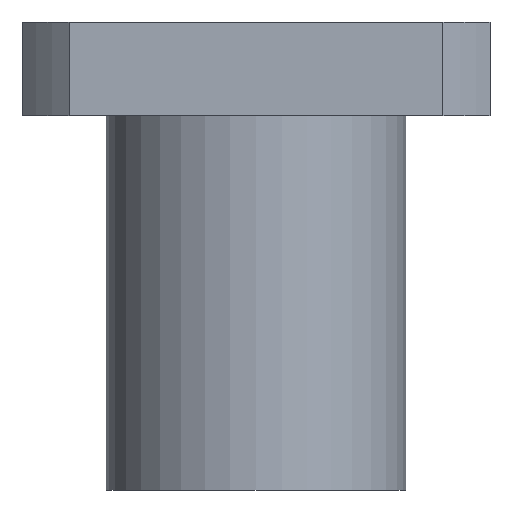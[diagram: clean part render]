
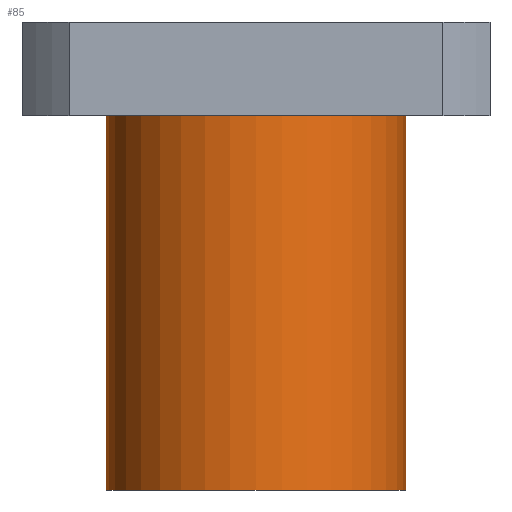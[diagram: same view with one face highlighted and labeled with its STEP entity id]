
A CAD part, front view. The second image highlights one B-rep face of the part: STEP entity #85.
In plain terms, the highlighted cylindrical face has radius 8 mm (diameter 16 mm), a partial arc.
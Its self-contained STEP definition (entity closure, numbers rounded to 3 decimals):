
#44=CARTESIAN_POINT('',(0.0,0.0,0.0));
#45=DIRECTION('',(0.0,0.0,1.0));
#46=DIRECTION('',(-1.0,0.0,0.0));
#47=AXIS2_PLACEMENT_3D('',#44,#45,#46);
#48=CYLINDRICAL_SURFACE('',#47,8.0);
#49=CARTESIAN_POINT('',(-8.0,0.,0.0));
#50=VERTEX_POINT('',#49);
#51=CARTESIAN_POINT('',(-8.0,0.,20.));
#52=VERTEX_POINT('',#51);
#53=CARTESIAN_POINT('',(-8.0,0.,0.0));
#54=DIRECTION('',(0.0,0.0,1.0));
#55=VECTOR('',#54,20.);
#56=LINE('',#53,#55);
#57=EDGE_CURVE('',#50,#52,#56,.T.);
#58=ORIENTED_EDGE('',*,*,#57,.F.);
#59=CARTESIAN_POINT('',(8.0,0.,0.0));
#60=VERTEX_POINT('',#59);
#61=CARTESIAN_POINT('',(0.0,0.0,0.0));
#62=DIRECTION('',(0.0,0.0,-1.0));
#63=DIRECTION('',(-1.0,0.0,0.0));
#64=AXIS2_PLACEMENT_3D('',#61,#62,#63);
#65=CIRCLE('',#64,8.0);
#66=EDGE_CURVE('',#60,#50,#65,.T.);
#67=ORIENTED_EDGE('',*,*,#66,.F.);
#68=CARTESIAN_POINT('',(8.0,0.,20.0));
#69=VERTEX_POINT('',#68);
#70=CARTESIAN_POINT('',(8.0,0.,20.0));
#71=DIRECTION('',(0.0,0.0,-1.0));
#72=VECTOR('',#71,20.0);
#73=LINE('',#70,#72);
#74=EDGE_CURVE('',#69,#60,#73,.T.);
#75=ORIENTED_EDGE('',*,*,#74,.F.);
#76=CARTESIAN_POINT('',(0.0,0.0,20.));
#77=DIRECTION('',(0.0,0.0,-1.0));
#78=DIRECTION('',(-1.0,0.0,0.0));
#79=AXIS2_PLACEMENT_3D('',#76,#77,#78);
#80=CIRCLE('',#79,8.0);
#81=EDGE_CURVE('',#69,#52,#80,.T.);
#82=ORIENTED_EDGE('',*,*,#81,.T.);
#83=EDGE_LOOP('',(#58,#67,#75,#82));
#84=FACE_OUTER_BOUND('',#83,.T.);
#85=ADVANCED_FACE('',(#84),#48,.T.);
